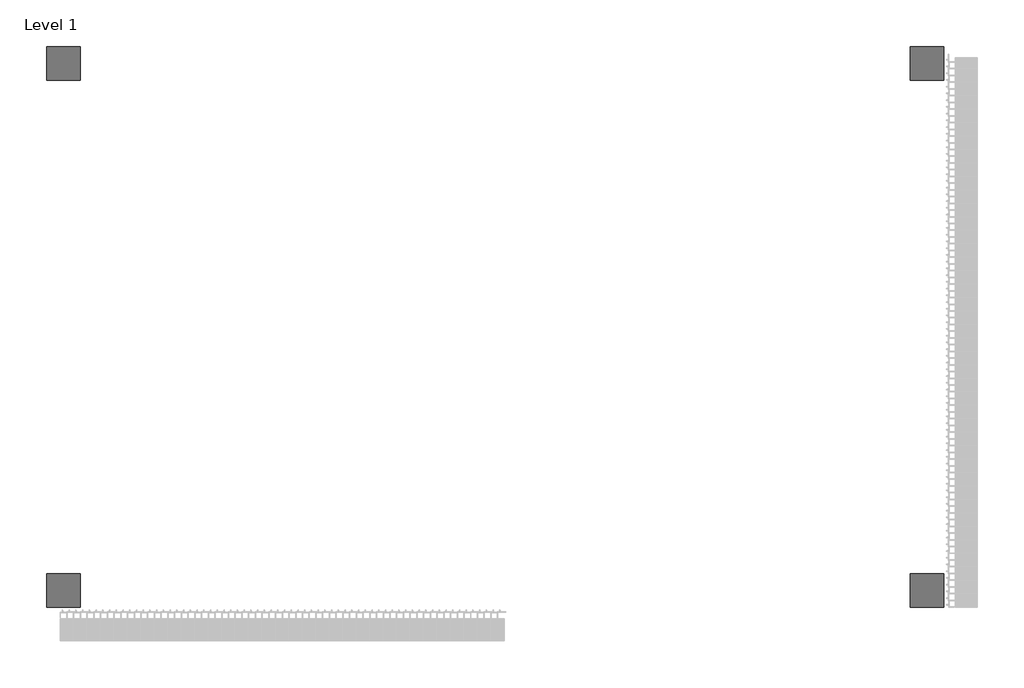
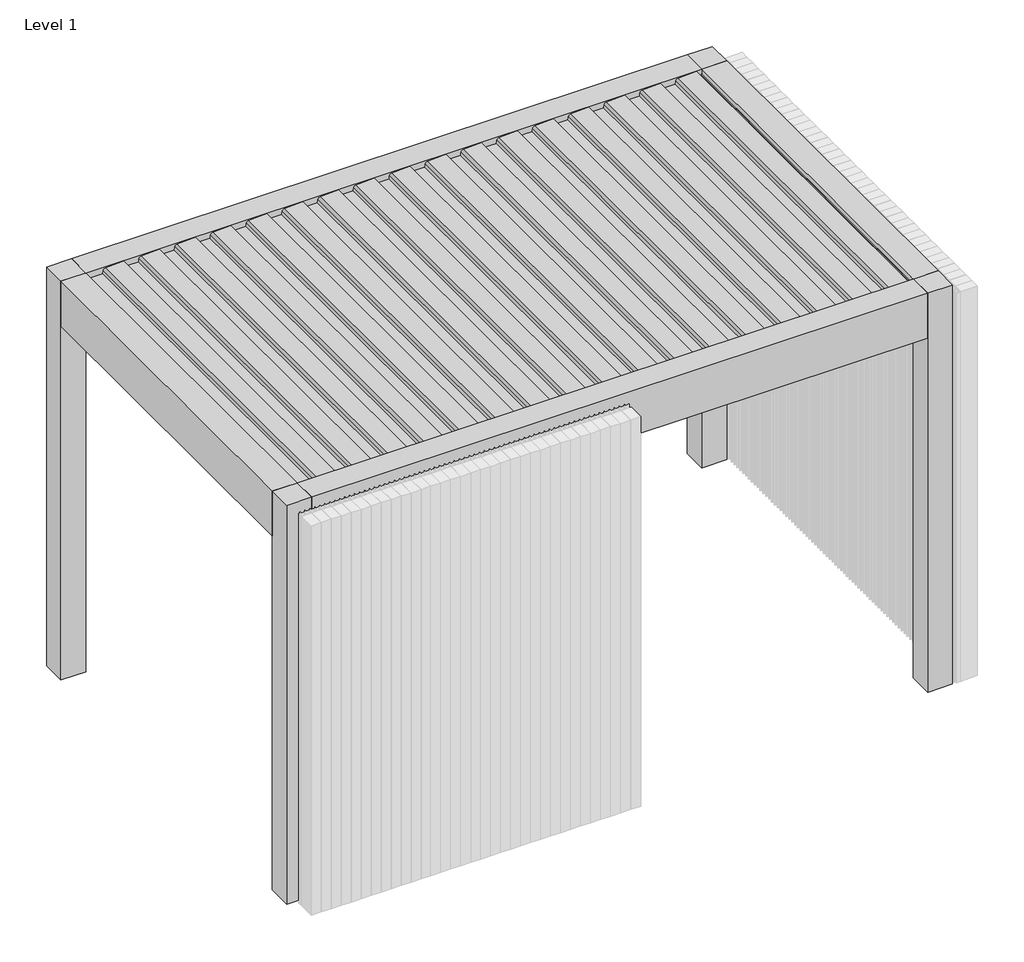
# One storey, part 33 of 80: 1 proxy.
"""IFC4 building model written with IfcOpenShell, lengths in millimetres."""

from ifc_helpers import new_model, si_unit, point, frame, frame_2d, origin, origin_with_axes, place, context, project, spatial, polyline, circle_curve, trimmed, segment, composite_curve, outline, extrude, element, save

model = new_model("IFC4")

# Units and contexts
model_context = context("Model", 3, world=origin())
ifc_project = project(units=[si_unit("LENGTHUNIT", "METRE", prefix="MILLI")], contexts=[model_context])

# Site, building, storey
site = spatial("IfcSite", under=ifc_project)
building = spatial("IfcBuilding", under=site)
storey = spatial("IfcBuildingStorey", under=building, Name="Level 1", Elevation=0.0)

# Proxy
placement = place(None, origin())
element("IfcBuildingElementProxy", 1, Name="Renson_Amani_Patio_Cover : Renson_Amani_Patio_Cover", ObjectType="Renson_Amani_Patio_Cover : Renson_Amani_Patio_Cover", at=placement, inside=storey, context=model_context, shape_type="SweptSolid", body=[
    extrude(outline(polyline([(-18327.8406315, 2535.0), (-18327.8406315, 2322.0), (-18257.8406316, 2322.0), (-18257.8406316, 2250.0), (-18477.8406315, 2250.0), (-18477.8406315, 2535.0), (-18327.8406315, 2535.0)])), frame((383125.5749426, 0.0, 0.0), z_axis=(1.0, 0.0, 0.0), x_axis=(0.0, 1.0, 0.0)), (0.0, 0.0, 1.0), 3700.0),
    extrude(outline(polyline([(-15977.8406315, 2250.0), (-16197.8406314, 2250.0), (-16197.8406314, 2322.0), (-16127.8406315, 2322.0), (-16127.8406315, 2535.0), (-15977.8406315, 2535.0), (-15977.8406315, 2250.0)])), frame((383125.5749426, 0.0, 0.0), z_axis=(1.0, 0.0, 0.0), x_axis=(0.0, 1.0, 0.0)), (0.0, 0.0, 1.0), 3700.0),
    extrude(outline(polyline([(383125.5749426, -18327.8406315), (382975.5749426, -18327.8406315), (382975.5749426, -16127.8406315), (383125.5749426, -16127.8406315), (383125.5749426, -18327.8406315)])), frame((0.0, 0.0, 2250.0), z_axis=(0.0, 0.0, 1.0), x_axis=(1.0, 0.0, 0.0)), (0.0, 0.0, 1.0), 285.0),
    extrude(outline(polyline([(2535.0, 386975.5749426), (2535.0, 386825.5749426), (2504.6904658, 386825.5749426), (2504.2449277, 386820.5749426), (2496.400763, 386820.5749426), (2480.6555802, 386804.8293581), (2480.6555802, 386795.4839749), (2466.6559373, 386799.2352636), (2466.6559373, 386825.5749426), (2250.0, 386825.5749426), (2250.0, 386975.5749426), (2535.0, 386975.5749426)])), frame((0.0, -18327.8406315, 0.0), z_axis=(0.0, 1.0, 0.0), x_axis=(0.0, 0.0, 1.0)), (0.0, 0.0, 1.0), 2200.0),
    extrude(outline(polyline([(2466.6559373, 383125.5749426), (2466.6559373, 383151.5749426), (2480.6555802, 383155.3262313), (2480.6555802, 383145.9808481), (2496.400763, 383130.5749426), (2504.2449277, 383130.5749426), (2504.6823598, 383125.5749426), (2466.6559373, 383125.5749426)])), frame((0.0, -18327.8406315, 0.0), z_axis=(0.0, 1.0, 0.0), x_axis=(0.0, 0.0, 1.0)), (0.0, 0.0, 1.0), 2200.0),
    extrude(outline(polyline([(383125.5749426, -18327.8406315), (383125.5749426, -18477.8406315), (382975.5749426, -18477.8406315), (382975.5749426, -18327.8406315), (383125.5749426, -18327.8406315)])), origin_with_axes(), (0.0, 0.0, 1.0), 2535.0),
    extrude(outline(polyline([(383125.5749426, -16127.8406315), (382975.5749426, -16127.8406315), (382975.5749426, -15977.8406315), (383125.5749426, -15977.8406315), (383125.5749426, -16127.8406315)])), origin_with_axes(), (0.0, 0.0, 1.0), 2535.0),
    extrude(outline(polyline([(386975.5749426, -15977.8406315), (386975.5749426, -16127.8406315), (386825.5749426, -16127.8406315), (386825.5749426, -15977.8406315), (386975.5749426, -15977.8406315)])), origin_with_axes(), (0.0, 0.0, 1.0), 2535.0),
    extrude(outline(polyline([(386975.5749426, -18327.8406315), (386975.5749426, -18477.8406315), (386825.5749426, -18477.8406315), (386825.5749426, -18327.8406315), (386975.5749426, -18327.8406315)])), origin_with_axes(), (0.0, 0.0, 1.0), 2535.0),
    extrude(outline(composite_curve([segment(polyline([(2483.35, 383324.1467059), (2511.01198, 383326.5668156), (2512.3970364, 383355.4020661), (2531.8911096, 383351.964735), (2526.6075693, 383241.9676201)]), True, "CONTINUOUS"), segment(trimmed(circle_curve(frame_2d((2511.6248435, 383242.6872921)), 15.0), [point((2526.6075693, 383241.9676201))], [point((2514.2295662, 383227.9151758))], False, "CARTESIAN"), True, "CONTINUOUS"), segment(polyline([(2514.2295662, 383227.9151758), (2495.0, 383224.5244844), (2495.0, 383136.7887084), (2512.0788237, 383133.777251), (2511.3450182, 383118.5002805), (2483.35, 383116.0510338), (2483.35, 383324.1467059)]), True, "CONTINUOUS")], self_intersect=False)), frame((0.0, -18327.8406315, 0.0), z_axis=(0.0, 1.0, 0.0), x_axis=(0.0, 0.0, 1.0)), (0.0, 0.0, 1.0), 2200.0),
    extrude(outline(composite_curve([segment(polyline([(2483.35, 386764.3195824), (2511.01198, 386766.7396921), (2512.3970364, 386795.5749426), (2531.8911096, 386792.1376115), (2526.6075693, 386682.1404966)]), True, "CONTINUOUS"), segment(trimmed(circle_curve(frame_2d((2511.6248435, 386682.8601686)), 15.0), [point((2526.6075693, 386682.1404966))], [point((2514.2295662, 386668.0880523))], False, "CARTESIAN"), True, "CONTINUOUS"), segment(polyline([(2514.2295662, 386668.0880523), (2495.0, 386664.6973609), (2495.0, 386576.9615849), (2512.0788237, 386573.9501275), (2511.3450182, 386558.673157), (2483.35, 386556.2239103), (2483.35, 386764.3195824)]), True, "CONTINUOUS")], self_intersect=False)), frame((0.0, -18327.8406315, 0.0), z_axis=(0.0, 1.0, 0.0), x_axis=(0.0, 0.0, 1.0)), (0.0, 0.0, 1.0), 2200.0),
    extrude(outline(composite_curve([segment(polyline([(2483.35, 383539.1575107), (2511.01198, 383541.5776204), (2512.3970364, 383570.4128708), (2531.8911096, 383566.9755398), (2526.6075693, 383456.9784249)]), True, "CONTINUOUS"), segment(trimmed(circle_curve(frame_2d((2511.6248435, 383457.6980968)), 15.0), [point((2526.6075693, 383456.9784249))], [point((2514.2295662, 383442.9259805))], False, "CARTESIAN"), True, "CONTINUOUS"), segment(polyline([(2514.2295662, 383442.9259805), (2495.0, 383439.5352892), (2495.0, 383351.7995132), (2512.0788237, 383348.7880558), (2511.3450182, 383333.5110853), (2483.35, 383331.0618386), (2483.35, 383539.1575107)]), True, "CONTINUOUS")], self_intersect=False)), frame((0.0, -18327.8406315, 0.0), z_axis=(0.0, 1.0, 0.0), x_axis=(0.0, 0.0, 1.0)), (0.0, 0.0, 1.0), 2200.0),
    extrude(outline(composite_curve([segment(polyline([(2483.35, 383754.1683155), (2511.01198, 383756.5884252), (2512.3970364, 383785.4236756), (2531.8911096, 383781.9863445), (2526.6075693, 383671.9892297)]), True, "CONTINUOUS"), segment(trimmed(circle_curve(frame_2d((2511.6248435, 383672.7089016)), 15.0), [point((2526.6075693, 383671.9892297))], [point((2514.2295662, 383657.9367853))], False, "CARTESIAN"), True, "CONTINUOUS"), segment(polyline([(2514.2295662, 383657.9367853), (2495.0, 383654.546094), (2495.0, 383566.810318), (2512.0788237, 383563.7988605), (2511.3450182, 383548.5218901), (2483.35, 383546.0726433), (2483.35, 383754.1683155)]), True, "CONTINUOUS")], self_intersect=False)), frame((0.0, -18327.8406315, 0.0), z_axis=(0.0, 1.0, 0.0), x_axis=(0.0, 0.0, 1.0)), (0.0, 0.0, 1.0), 2200.0),
    extrude(outline(composite_curve([segment(polyline([(2483.35, 383969.1791203), (2511.01198, 383971.5992299), (2512.3970364, 384000.4344804), (2531.8911096, 383996.9971493), (2526.6075693, 383887.0000345)]), True, "CONTINUOUS"), segment(trimmed(circle_curve(frame_2d((2511.6248435, 383887.7197064)), 15.0), [point((2526.6075693, 383887.0000345))], [point((2514.2295662, 383872.9475901))], False, "CARTESIAN"), True, "CONTINUOUS"), segment(polyline([(2514.2295662, 383872.9475901), (2495.0, 383869.5568988), (2495.0, 383781.8211227), (2512.0788237, 383778.8096653), (2511.3450182, 383763.5326948), (2483.35, 383761.0834481), (2483.35, 383969.1791203)]), True, "CONTINUOUS")], self_intersect=False)), frame((0.0, -18327.8406315, 0.0), z_axis=(0.0, 1.0, 0.0), x_axis=(0.0, 0.0, 1.0)), (0.0, 0.0, 1.0), 2200.0),
    extrude(outline(composite_curve([segment(polyline([(2483.35, 384184.1899251), (2511.01198, 384186.6100347), (2512.3970364, 384215.4452852), (2531.8911096, 384212.0079541), (2526.6075693, 384102.0108393)]), True, "CONTINUOUS"), segment(trimmed(circle_curve(frame_2d((2511.6248435, 384102.7305112)), 15.0), [point((2526.6075693, 384102.0108393))], [point((2514.2295662, 384087.9583949))], False, "CARTESIAN"), True, "CONTINUOUS"), segment(polyline([(2514.2295662, 384087.9583949), (2495.0, 384084.5677035), (2495.0, 383996.8319275), (2512.0788237, 383993.8204701), (2511.3450182, 383978.5434996), (2483.35, 383976.0942529), (2483.35, 384184.1899251)]), True, "CONTINUOUS")], self_intersect=False)), frame((0.0, -18327.8406315, 0.0), z_axis=(0.0, 1.0, 0.0), x_axis=(0.0, 0.0, 1.0)), (0.0, 0.0, 1.0), 2200.0),
    extrude(outline(composite_curve([segment(polyline([(2483.35, 384399.2007298), (2511.01198, 384401.6208395), (2512.3970364, 384430.45609), (2531.8911096, 384427.0187589), (2526.6075693, 384317.021644)]), True, "CONTINUOUS"), segment(trimmed(circle_curve(frame_2d((2511.6248435, 384317.741316)), 15.0), [point((2526.6075693, 384317.021644))], [point((2514.2295662, 384302.9691997))], False, "CARTESIAN"), True, "CONTINUOUS"), segment(polyline([(2514.2295662, 384302.9691997), (2495.0, 384299.5785083), (2495.0, 384211.8427323), (2512.0788237, 384208.8312749), (2511.3450182, 384193.5543044), (2483.35, 384191.1050577), (2483.35, 384399.2007298)]), True, "CONTINUOUS")], self_intersect=False)), frame((0.0, -18327.8406315, 0.0), z_axis=(0.0, 1.0, 0.0), x_axis=(0.0, 0.0, 1.0)), (0.0, 0.0, 1.0), 2200.0),
    extrude(outline(composite_curve([segment(polyline([(2483.35, 384614.2115346), (2511.01198, 384616.6316443), (2512.3970364, 384645.4668947), (2531.8911096, 384642.0295637), (2526.6075693, 384532.0324488)]), True, "CONTINUOUS"), segment(trimmed(circle_curve(frame_2d((2511.6248435, 384532.7521207)), 15.0), [point((2526.6075693, 384532.0324488))], [point((2514.2295662, 384517.9800045))], False, "CARTESIAN"), True, "CONTINUOUS"), segment(polyline([(2514.2295662, 384517.9800045), (2495.0, 384514.5893131), (2495.0, 384426.8535371), (2512.0788237, 384423.8420797), (2511.3450182, 384408.5651092), (2483.35, 384406.1158625), (2483.35, 384614.2115346)]), True, "CONTINUOUS")], self_intersect=False)), frame((0.0, -18327.8406315, 0.0), z_axis=(0.0, 1.0, 0.0), x_axis=(0.0, 0.0, 1.0)), (0.0, 0.0, 1.0), 2200.0),
    extrude(outline(composite_curve([segment(polyline([(2483.35, 384829.2223394), (2511.01198, 384831.6424491), (2512.3970364, 384860.4776995), (2531.8911096, 384857.0403684), (2526.6075693, 384747.0432536)]), True, "CONTINUOUS"), segment(trimmed(circle_curve(frame_2d((2511.6248435, 384747.7629255)), 15.0), [point((2526.6075693, 384747.0432536))], [point((2514.2295662, 384732.9908092))], False, "CARTESIAN"), True, "CONTINUOUS"), segment(polyline([(2514.2295662, 384732.9908092), (2495.0, 384729.6001179), (2495.0, 384641.8643419), (2512.0788237, 384638.8528844), (2511.3450182, 384623.575914), (2483.35, 384621.1266672), (2483.35, 384829.2223394)]), True, "CONTINUOUS")], self_intersect=False)), frame((0.0, -18327.8406315, 0.0), z_axis=(0.0, 1.0, 0.0), x_axis=(0.0, 0.0, 1.0)), (0.0, 0.0, 1.0), 2200.0),
    extrude(outline(composite_curve([segment(polyline([(2483.35, 385044.2331442), (2511.01198, 385046.6532538), (2512.3970364, 385075.4885043), (2531.8911096, 385072.0511732), (2526.6075693, 384962.0540584)]), True, "CONTINUOUS"), segment(trimmed(circle_curve(frame_2d((2511.6248435, 384962.7737303)), 15.0), [point((2526.6075693, 384962.0540584))], [point((2514.2295662, 384948.001614))], False, "CARTESIAN"), True, "CONTINUOUS"), segment(polyline([(2514.2295662, 384948.001614), (2495.0, 384944.6109227), (2495.0, 384856.8751466), (2512.0788237, 384853.8636892), (2511.3450182, 384838.5867188), (2483.35, 384836.137472), (2483.35, 385044.2331442)]), True, "CONTINUOUS")], self_intersect=False)), frame((0.0, -18327.8406315, 0.0), z_axis=(0.0, 1.0, 0.0), x_axis=(0.0, 0.0, 1.0)), (0.0, 0.0, 1.0), 2200.0),
    extrude(outline(composite_curve([segment(polyline([(2483.35, 385259.243949), (2511.01198, 385261.6640586), (2512.3970364, 385290.4993091), (2531.8911096, 385287.061978), (2526.6075693, 385177.0648632)]), True, "CONTINUOUS"), segment(trimmed(circle_curve(frame_2d((2511.6248435, 385177.7845351)), 15.0), [point((2526.6075693, 385177.0648632))], [point((2514.2295662, 385163.0124188))], False, "CARTESIAN"), True, "CONTINUOUS"), segment(polyline([(2514.2295662, 385163.0124188), (2495.0, 385159.6217275), (2495.0, 385071.8859514), (2512.0788237, 385068.874494), (2511.3450182, 385053.5975235), (2483.35, 385051.1482768), (2483.35, 385259.243949)]), True, "CONTINUOUS")], self_intersect=False)), frame((0.0, -18327.8406315, 0.0), z_axis=(0.0, 1.0, 0.0), x_axis=(0.0, 0.0, 1.0)), (0.0, 0.0, 1.0), 2200.0),
    extrude(outline(composite_curve([segment(polyline([(2483.35, 385474.2547538), (2511.01198, 385476.6748634), (2512.3970364, 385505.5101139), (2531.8911096, 385502.0727828), (2526.6075693, 385392.0756679)]), True, "CONTINUOUS"), segment(trimmed(circle_curve(frame_2d((2511.6248435, 385392.7953399)), 15.0), [point((2526.6075693, 385392.0756679))], [point((2514.2295662, 385378.0232236))], False, "CARTESIAN"), True, "CONTINUOUS"), segment(polyline([(2514.2295662, 385378.0232236), (2495.0, 385374.6325322), (2495.0, 385286.8967562), (2512.0788237, 385283.8852988), (2511.3450182, 385268.6083283), (2483.35, 385266.1590816), (2483.35, 385474.2547538)]), True, "CONTINUOUS")], self_intersect=False)), frame((0.0, -18327.8406315, 0.0), z_axis=(0.0, 1.0, 0.0), x_axis=(0.0, 0.0, 1.0)), (0.0, 0.0, 1.0), 2200.0),
    extrude(outline(composite_curve([segment(polyline([(2483.35, 385689.2655585), (2511.01198, 385691.6856682), (2512.3970364, 385720.5209187), (2531.8911096, 385717.0835876), (2526.6075693, 385607.0864727)]), True, "CONTINUOUS"), segment(trimmed(circle_curve(frame_2d((2511.6248435, 385607.8061447)), 15.0), [point((2526.6075693, 385607.0864727))], [point((2514.2295662, 385593.0340284))], False, "CARTESIAN"), True, "CONTINUOUS"), segment(polyline([(2514.2295662, 385593.0340284), (2495.0, 385589.643337), (2495.0, 385501.907561), (2512.0788237, 385498.8961036), (2511.3450182, 385483.6191331), (2483.35, 385481.1698864), (2483.35, 385689.2655585)]), True, "CONTINUOUS")], self_intersect=False)), frame((0.0, -18327.8406315, 0.0), z_axis=(0.0, 1.0, 0.0), x_axis=(0.0, 0.0, 1.0)), (0.0, 0.0, 1.0), 2200.0),
    extrude(outline(composite_curve([segment(polyline([(2483.35, 385904.2763633), (2511.01198, 385906.696473), (2512.3970364, 385935.5317234), (2531.8911096, 385932.0943924), (2526.6075693, 385822.0972775)]), True, "CONTINUOUS"), segment(trimmed(circle_curve(frame_2d((2511.6248435, 385822.8169494)), 15.0), [point((2526.6075693, 385822.0972775))], [point((2514.2295662, 385808.0448331))], False, "CARTESIAN"), True, "CONTINUOUS"), segment(polyline([(2514.2295662, 385808.0448331), (2495.0, 385804.6541418), (2495.0, 385716.9183658), (2512.0788237, 385713.9069084), (2511.3450182, 385698.6299379), (2483.35, 385696.1806912), (2483.35, 385904.2763633)]), True, "CONTINUOUS")], self_intersect=False)), frame((0.0, -18327.8406315, 0.0), z_axis=(0.0, 1.0, 0.0), x_axis=(0.0, 0.0, 1.0)), (0.0, 0.0, 1.0), 2200.0),
    extrude(outline(composite_curve([segment(polyline([(2483.35, 386119.2871681), (2511.01198, 386121.7072778), (2512.3970364, 386150.5425282), (2531.8911096, 386147.1051971), (2526.6075693, 386037.1080823)]), True, "CONTINUOUS"), segment(trimmed(circle_curve(frame_2d((2511.6248435, 386037.8277542)), 15.0), [point((2526.6075693, 386037.1080823))], [point((2514.2295662, 386023.0556379))], False, "CARTESIAN"), True, "CONTINUOUS"), segment(polyline([(2514.2295662, 386023.0556379), (2495.0, 386019.6649466), (2495.0, 385931.9291706), (2512.0788237, 385928.9177131), (2511.3450182, 385913.6407427), (2483.35, 385911.1914959), (2483.35, 386119.2871681)]), True, "CONTINUOUS")], self_intersect=False)), frame((0.0, -18327.8406315, 0.0), z_axis=(0.0, 1.0, 0.0), x_axis=(0.0, 0.0, 1.0)), (0.0, 0.0, 1.0), 2200.0),
    extrude(outline(composite_curve([segment(polyline([(2483.35, 386334.2979729), (2511.01198, 386336.7180825), (2512.3970364, 386365.553333), (2531.8911096, 386362.1160019), (2526.6075693, 386252.1188871)]), True, "CONTINUOUS"), segment(trimmed(circle_curve(frame_2d((2511.6248435, 386252.838559)), 15.0), [point((2526.6075693, 386252.1188871))], [point((2514.2295662, 386238.0664427))], False, "CARTESIAN"), True, "CONTINUOUS"), segment(polyline([(2514.2295662, 386238.0664427), (2495.0, 386234.6757514), (2495.0, 386146.9399753), (2512.0788237, 386143.9285179), (2511.3450182, 386128.6515474), (2483.35, 386126.2023007), (2483.35, 386334.2979729)]), True, "CONTINUOUS")], self_intersect=False)), frame((0.0, -18327.8406315, 0.0), z_axis=(0.0, 1.0, 0.0), x_axis=(0.0, 0.0, 1.0)), (0.0, 0.0, 1.0), 2200.0),
    extrude(outline(composite_curve([segment(polyline([(2483.35, 386549.3087777), (2511.01198, 386551.7288873), (2512.3970364, 386580.5641378), (2531.8911096, 386577.1268067), (2526.6075693, 386467.1296919)]), True, "CONTINUOUS"), segment(trimmed(circle_curve(frame_2d((2511.6248435, 386467.8493638)), 15.0), [point((2526.6075693, 386467.1296919))], [point((2514.2295662, 386453.0772475))], False, "CARTESIAN"), True, "CONTINUOUS"), segment(polyline([(2514.2295662, 386453.0772475), (2495.0, 386449.6865561), (2495.0, 386361.9507801), (2512.0788237, 386358.9393227), (2511.3450182, 386343.6623522), (2483.35, 386341.2131055), (2483.35, 386549.3087777)]), True, "CONTINUOUS")], self_intersect=False)), frame((0.0, -18327.8406315, 0.0), z_axis=(0.0, 1.0, 0.0), x_axis=(0.0, 0.0, 1.0)), (0.0, 0.0, 1.0), 2200.0),
])

save(model, "model.ifc")
